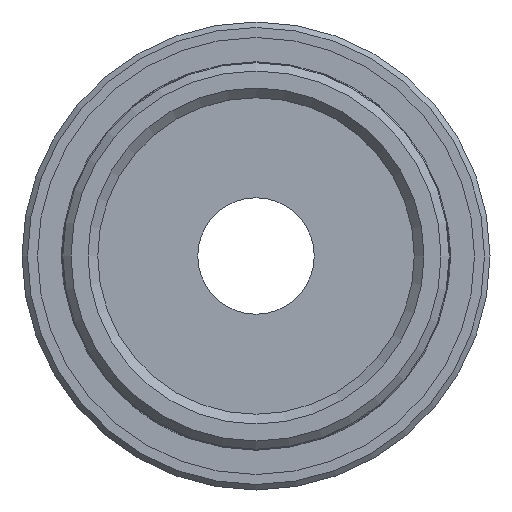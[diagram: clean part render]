
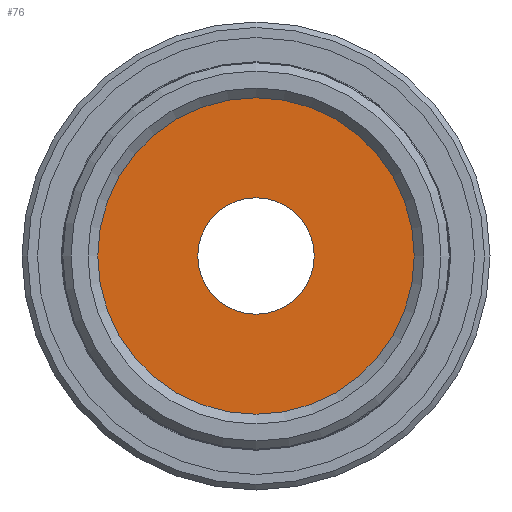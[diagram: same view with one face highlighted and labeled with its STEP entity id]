
A CAD part, left-side view. The second image highlights one B-rep face of the part: STEP entity #76.
In plain terms, the highlighted planar face has unit normal (-1, 0, 0).
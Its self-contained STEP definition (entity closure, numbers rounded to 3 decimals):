
#76 = ADVANCED_FACE( '', ( #154, #155 ), #156, .T. );
#154 = FACE_BOUND( '', #337, .T. );
#155 = FACE_OUTER_BOUND( '', #338, .T. );
#156 = PLANE( '', #339 );
#337 = EDGE_LOOP( '', ( #556 ) );
#338 = EDGE_LOOP( '', ( #557 ) );
#339 = AXIS2_PLACEMENT_3D( '', #558, #559, #560 );
#556 = ORIENTED_EDGE( '', *, *, #1152, .T. );
#557 = ORIENTED_EDGE( '', *, *, #1153, .F. );
#558 = CARTESIAN_POINT( '', ( -50.5, 8.15, 0. ) );
#559 = DIRECTION( '', ( -1., 0., 0. ) );
#560 = DIRECTION( '', ( 0., 0., 1. ) );
#1152 = EDGE_CURVE( '', #1375, #1375, #1376, .T. );
#1153 = EDGE_CURVE( '', #1377, #1377, #1378, .T. );
#1375 = VERTEX_POINT( '', #1737 );
#1376 = CIRCLE( '', #1738, 3. );
#1377 = VERTEX_POINT( '', #1739 );
#1378 = CIRCLE( '', #1740, 8.15 );
#1737 = CARTESIAN_POINT( '', ( -50.5, 0., -3. ) );
#1738 = AXIS2_PLACEMENT_3D( '', #2825, #2826, #2827 );
#1739 = CARTESIAN_POINT( '', ( -50.5, 0., -8.15 ) );
#1740 = AXIS2_PLACEMENT_3D( '', #2828, #2829, #2830 );
#2825 = CARTESIAN_POINT( '', ( -50.5, 0., 0. ) );
#2826 = DIRECTION( '', ( 1., 0., 0. ) );
#2827 = DIRECTION( '', ( 0., 0., -1. ) );
#2828 = CARTESIAN_POINT( '', ( -50.5, 0., 0. ) );
#2829 = DIRECTION( '', ( 1., 0., 0. ) );
#2830 = DIRECTION( '', ( 0., 0., -1. ) );
